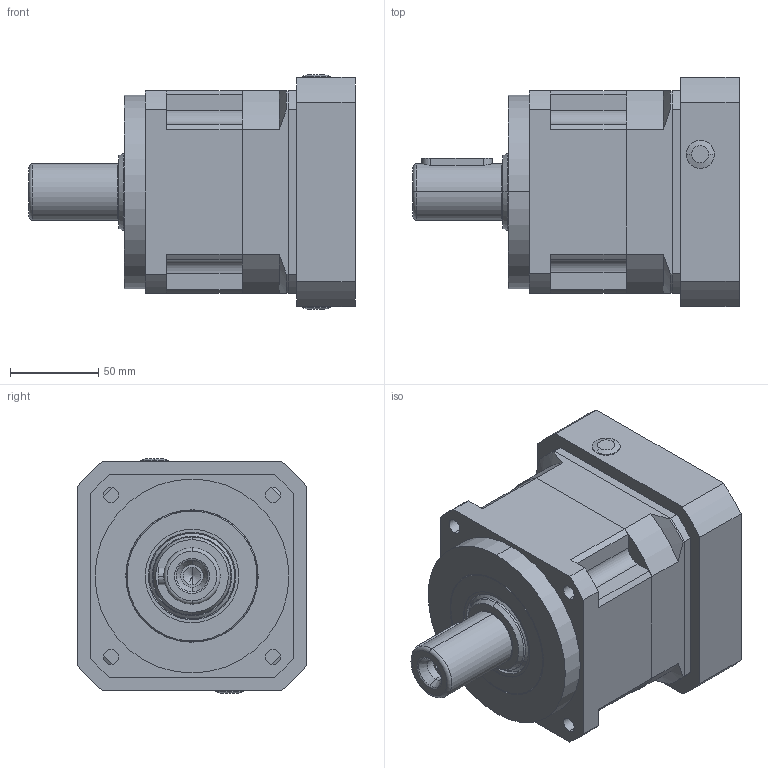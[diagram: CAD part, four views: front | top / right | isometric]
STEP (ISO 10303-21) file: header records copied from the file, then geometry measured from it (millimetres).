
FILE_DESCRIPTION (( 'STEP AP203' ), '1' );
FILE_NAME ('115-L1-24-110-145-M8-͹̨12.STEP', '2020-06-20T09:01:24', ( 'ylmfeng' ), ( 'ylmfeng.com' ), 'SwSTEP 2.0', 'SolidWorks 2014', '' );
FILE_SCHEMA (( 'CONFIG_CONTROL_DESIGN' ));
Length unit declared in the file: millimetre
Products named in the file (1): 115-L1-24-110-145-M8-͹̨12
Bounding box: 185 x 130 x 133 mm (x, y, z)
Volume: 1553757.1 mm3; surface area: 209548.2 mm2
Topology: 19 solids, 19 shells, 537 faces, 1314 edges, 838 vertices
Faces by surface type: plane 217, cylinder 199, cone 67, bspline 26, torus 24, sphere 4
Entity records: 18880 total; most frequent: CARTESIAN_POINT 6189, DIRECTION 2659, ORIENTED_EDGE 2604, EDGE_CURVE 1302, AXIS2_PLACEMENT_3D 1016, VERTEX_POINT 838, VECTOR 627, LINE 627
